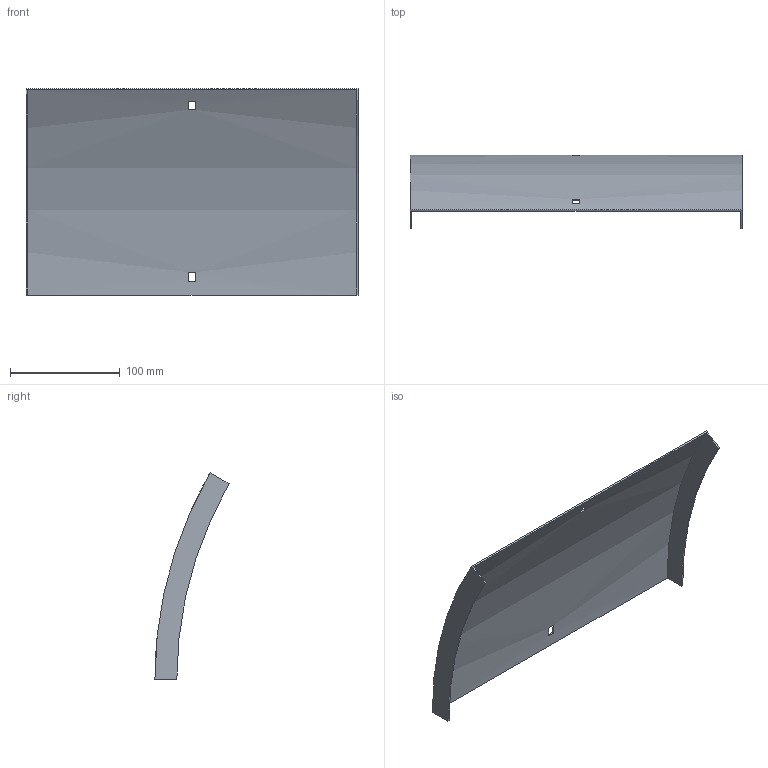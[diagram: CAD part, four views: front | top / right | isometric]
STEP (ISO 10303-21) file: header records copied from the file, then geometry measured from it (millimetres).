
FILE_DESCRIPTION (( 'STEP AP214' ), '1' );
FILE_NAME ('B2_35N3C300.step', '2025-02-21T10:31:49', ( '' ), ( '' ), 'SwSTEP 2.0', 'SolidWorks 2023', '' );
FILE_SCHEMA (( 'AUTOMOTIVE_DESIGN' ));
Length unit declared in the file: millimetre
Products named in the file (1): B2_35N3C300
Bounding box: 303 x 67.76 x 188.25 mm (x, y, z)
Volume: 99872.3 mm3; surface area: 134837.3 mm2
Topology: 1 solids, 1 shells, 18 faces, 48 edges, 32 vertices
Faces by surface type: plane 14, cylinder 4
Entity records: 599 total; most frequent: DIRECTION 102, CARTESIAN_POINT 99, ORIENTED_EDGE 96, EDGE_CURVE 48, AXIS2_PLACEMENT_3D 35, LINE 32, VERTEX_POINT 32, VECTOR 32
